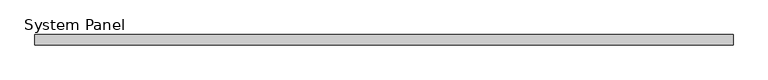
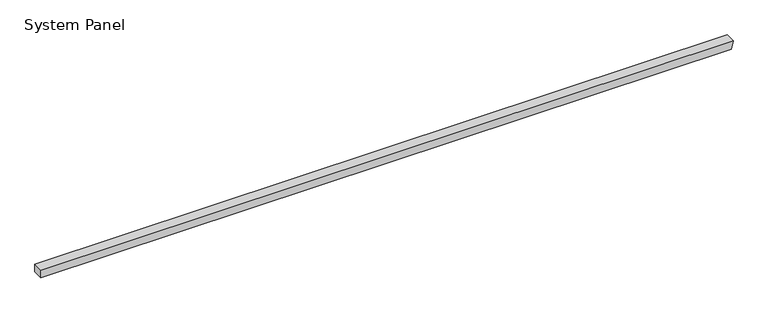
"""IFC4 building model written with IfcOpenShell, lengths in millimetres: plate geometry, System Panel : Equitilt_FlameGuard_100mm_Plain_Surfmist."""

from ifc_helpers import new_model, si_unit, frame, origin, place, context, project, spatial, polyline, outline, extrude, source, transform, mapped, element, save


def system_panel_57769627(model_context):
    return source(origin(), model_context, "Body", "SweptSolid", [
        extrude(outline(polyline([(0.0, -3395.0), (0.0, 3377.6149856), (79.9704237, 3395.0), (79.9704237, -3395.0), (0.0, -3395.0)])), frame((0.0, -100.0, 0.0), z_axis=(0.0, 1.0, 0.0), x_axis=(0.0, 0.0, 1.0)), (0.0, 0.0, 1.0), 100.0),
    ])


if __name__ == "__main__":
    model = new_model("IFC4")
    model_context = context("Model", 3, world=origin())
    ifc_project = project(units=[si_unit("LENGTHUNIT", "METRE", prefix="MILLI")], contexts=[model_context])
    site = spatial("IfcSite", under=ifc_project)
    building = spatial("IfcBuilding", under=site)
    placement = place(None, origin())
    system_panel_shape = system_panel_57769627(model_context)
    element("IfcPlate", 1, ObjectType="System Panel : Equitilt_FlameGuard_100mm_Plain_Surfmist", at=placement, inside=building, context=model_context, shape_type="MappedRepresentation", body=[
        mapped(system_panel_shape, transform((0.0, 0.0, 0.0), x_axis=(1.0, 0.0, 0.0), y_axis=(0.0, 1.0, 0.0), z_axis=(0.0, 0.0, 1.0))),
    ])
    save(model, "model.ifc")
